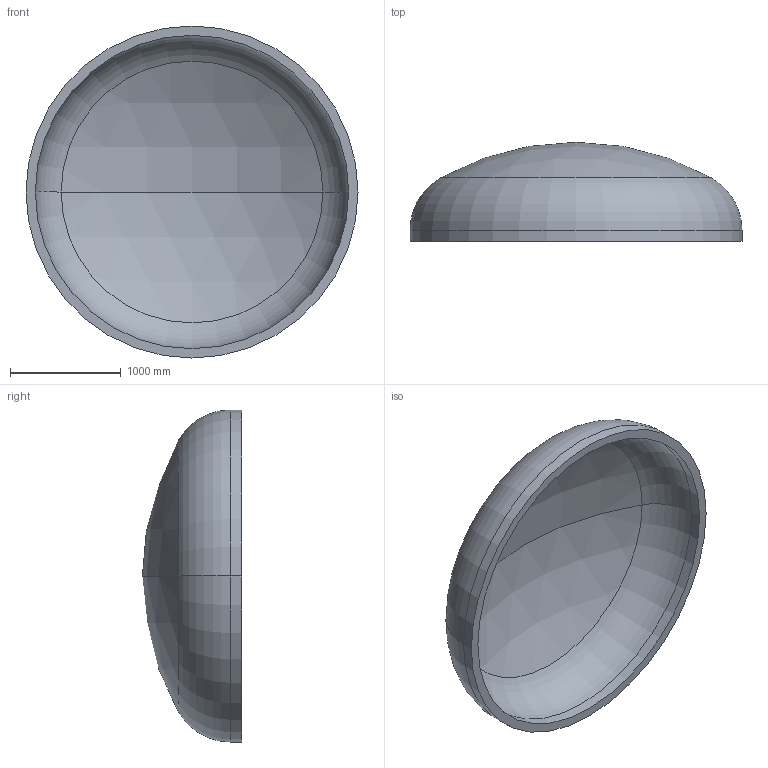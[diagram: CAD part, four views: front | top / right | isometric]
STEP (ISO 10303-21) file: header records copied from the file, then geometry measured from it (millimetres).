
FILE_DESCRIPTION (( 'STEP AP203' ), '1' );
FILE_NAME ('DIN 28013 Korbbogenform_-_Boden DIN 28013 - 3000 x 100 - I - s=84.step', '2016-07-01T18:02:07', ( '' ), ( '' ), 'SwSTEP 2.0', 'SolidWorks 2013', '' );
FILE_SCHEMA (( 'CONFIG_CONTROL_DESIGN' ));
Length unit declared in the file: millimetre
Products named in the file (1): DIN 28013 Korbbogenform_-_Boden DIN 28013 - 3000 x 100 - I - s=84
Bounding box: 3000 x 895.91 x 3000 mm (x, y, z)
Volume: 869029923.4 mm3; surface area: 21475474.1 mm2
Topology: 1 solids, 1 shells, 13 faces, 24 edges, 14 vertices
Faces by surface type: torus 4, cylinder 4, sphere 4, plane 1
Entity records: 407 total; most frequent: DIRECTION 72, CARTESIAN_POINT 52, ORIENTED_EDGE 48, AXIS2_PLACEMENT_3D 34, EDGE_CURVE 24, CIRCLE 20, EDGE_LOOP 14, VERTEX_POINT 14
